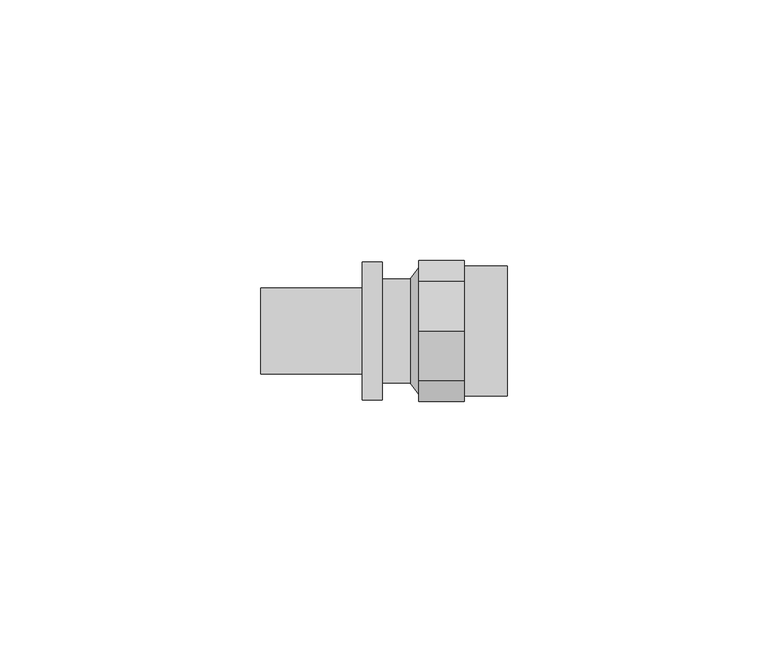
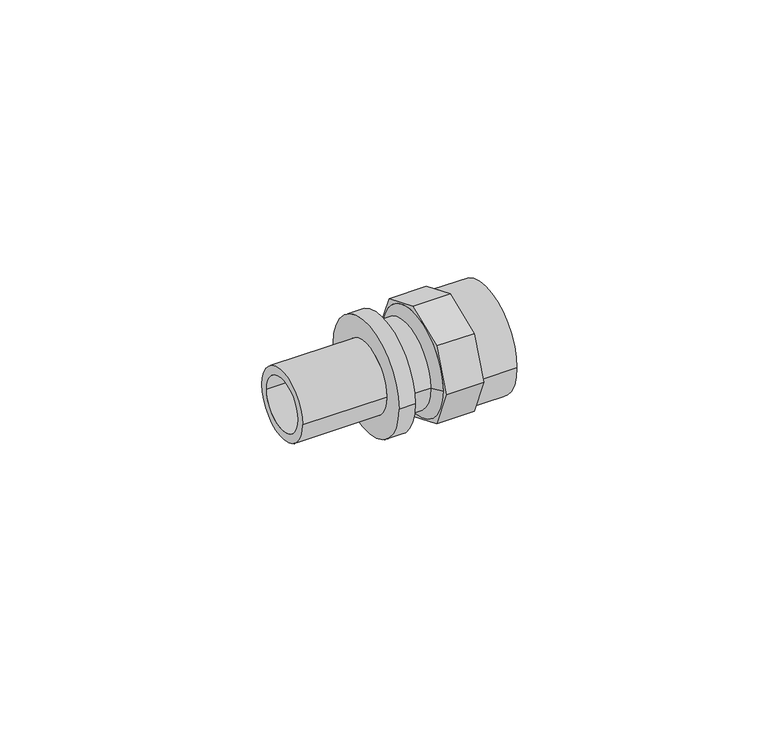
"""IFC4 building model written with IfcOpenShell, lengths in millimetres: pipe fitting geometry, REHAU_RAUTITAN_Adaptor_RX+, with internal thread : REHAU_RAUTITAN_Adaptor_RX+, with internal thread."""

from ifc_helpers import new_model, si_unit, point, frame, origin, origin_2d, place, context, project, spatial, polyline, circle_curve, trimmed, segment, composite_curve, outline, extrude, source, transform, mapped, element, save
from ifc_brep_helpers import plane_surface, cylinder_surface, revolved_surface, advanced_brep


def pipe_fitting_49fee2ea(model_context):
    return source(origin(), model_context, "Body", "SolidModel", [
        advanced_brep(
        [(4.35, -9.5670858, 9.5670858), (4.35, -13.5299025, 0.0), (4.35, -9.5670858, -9.5670858), (4.35, 0.0, -13.5299025), (4.35, 9.5670858, -9.5670858), (4.35, 13.5299025, 0.0), (4.35, 9.5670858, 9.5670858), (4.35, 0.0, 13.5299025), (4.35, -9.5, 0.0), (4.35, 9.5, 0.0), (-4.35, -9.5670858, 9.5670858), (-4.35, 0.0, 13.5299025), (-4.35, 9.5670858, 9.5670858), (-4.35, 13.5299025, 0.0), (-4.35, 9.5670858, -9.5670858), (-4.35, 0.0, -13.5299025), (-4.35, -9.5670858, -9.5670858), (-4.35, -13.5299025, 0.0), (-4.35, -12.1542553, 0.0), (-4.35, 12.1542553, 0.0), (-4.35, 9.9557447, 0.0), (-4.35, -9.9557447, 0.0), (-4.35, -9.5, 0.0), (-4.35, 9.5, 0.0), (-5.97, 10.0, 0.0), (-5.97, -10.0, 0.0), (-11.39, -10.0, 0.0), (-11.39, 10.0, 0.0), (-5.97, 7.25, 0.0), (-5.97, -7.25, 0.0), (-34.69, 6.25, 0.0), (-34.69, -6.25, 0.0), (-11.39, -6.25, 0.0), (-11.39, 6.25, 0.0), (-15.19, 8.225, 0.0), (-15.19, -8.225, 0.0), (-34.69, -8.225, 0.0), (-34.69, 8.225, 0.0), (-11.39, 13.25, 0.0), (-11.39, -13.25, 0.0), (-15.19, -13.25, 0.0), (-15.19, 13.25, 0.0)],
        [
            (0, 1),
            (1, 2),
            (2, 3),
            (3, 4),
            (4, 5),
            (5, 6),
            (6, 7),
            (7, 0),
            (8, 9, circle_curve(frame((4.35, 0.0, 0.0), z_axis=(-1.0, 0.0, 0.0), x_axis=(0.0, 1.0, 0.0)), 9.5)),
            (9, 8, circle_curve(frame((4.35, 0.0, 0.0), z_axis=(-1.0, 0.0, 0.0), x_axis=(0.0, 1.0, 0.0)), 9.5)),
            (10, 11),
            (11, 12),
            (12, 13),
            (13, 14),
            (14, 15),
            (15, 16),
            (16, 17),
            (17, 10),
            (18, 19, circle_curve(frame((-4.35, 0.0, 0.0), z_axis=(1.0, 0.0, 0.0), x_axis=(0.0, -1.0, 0.0)), 12.1542553)),
            (19, 18, circle_curve(frame((-4.35, 0.0, 0.0), z_axis=(1.0, 0.0, 0.0), x_axis=(0.0, 1.0, 0.0)), 12.1542553)),
            (20, 21, circle_curve(frame((-4.35, 0.0, 0.0), z_axis=(-1.0, 0.0, 0.0), x_axis=(0.0, -1.0, 0.0)), 9.9557447)),
            (21, 20, circle_curve(frame((-4.35, 0.0, 0.0), z_axis=(-1.0, 0.0, 0.0), x_axis=(0.0, 1.0, 0.0)), 9.9557447)),
            (22, 23, circle_curve(frame((-4.35, 0.0, 0.0), z_axis=(1.0, 0.0, 0.0), x_axis=(0.0, 1.0, 0.0)), 9.5)),
            (23, 22, circle_curve(frame((-4.35, 0.0, 0.0), z_axis=(1.0, 0.0, 0.0), x_axis=(0.0, 1.0, 0.0)), 9.5)),
            (8, 22),
            (23, 9),
            (0, 10),
            (17, 1),
            (16, 2),
            (15, 3),
            (14, 4),
            (13, 5),
            (12, 6),
            (11, 7),
            (24, 25, circle_curve(frame((-5.97, 0.0, 0.0), z_axis=(-1.0, 0.0, 0.0), x_axis=(0.0, -1.0, 0.0)), 10.0)),
            (25, 26),
            (26, 27, circle_curve(frame((-11.39, 0.0, 0.0), z_axis=(1.0, 0.0, 0.0), x_axis=(0.0, -1.0, 0.0)), 10.0)),
            (27, 24),
            (24, 19),
            (18, 25),
            (28, 29, circle_curve(frame((-5.97, 0.0, 0.0), z_axis=(-1.0, 0.0, 0.0), x_axis=(0.0, -1.0, 0.0)), 7.25)),
            (29, 21),
            (20, 28),
            (30, 31, circle_curve(frame((-34.69, 0.0, 0.0), z_axis=(-1.0, 0.0, 0.0), x_axis=(0.0, -1.0, 0.0)), 6.25)),
            (31, 32),
            (32, 33, circle_curve(frame((-11.39, 0.0, 0.0), z_axis=(1.0, 0.0, 0.0), x_axis=(0.0, -1.0, 0.0)), 6.25)),
            (33, 30),
            (34, 35, circle_curve(frame((-15.19, 0.0, 0.0), z_axis=(-1.0, 0.0, 0.0), x_axis=(0.0, -1.0, 0.0)), 8.225)),
            (35, 36),
            (36, 37, circle_curve(frame((-34.69, 0.0, 0.0), z_axis=(1.0, 0.0, 0.0), x_axis=(0.0, -1.0, 0.0)), 8.225)),
            (37, 34),
            (38, 39, circle_curve(frame((-11.39, 0.0, 0.0), z_axis=(-1.0, 0.0, 0.0), x_axis=(0.0, -1.0, 0.0)), 13.25)),
            (39, 40),
            (40, 41, circle_curve(frame((-15.19, 0.0, 0.0), z_axis=(1.0, 0.0, 0.0), x_axis=(0.0, -1.0, 0.0)), 13.25)),
            (41, 38),
            (38, 39, circle_curve(frame((-11.39, 0.0, 0.0), z_axis=(1.0, 0.0, 0.0), x_axis=(0.0, 1.0, 0.0)), 13.25)),
            (26, 27, circle_curve(frame((-11.39, 0.0, 0.0), z_axis=(-1.0, 0.0, 0.0), x_axis=(0.0, 1.0, 0.0)), 10.0)),
            (25, 24, circle_curve(frame((-5.97, 0.0, 0.0), z_axis=(-1.0, 0.0, 0.0), x_axis=(0.0, 1.0, 0.0)), 10.0)),
            (29, 28, circle_curve(frame((-5.97, 0.0, 0.0), z_axis=(-1.0, 0.0, 0.0), x_axis=(0.0, 1.0, 0.0)), 7.25)),
            (31, 30, circle_curve(frame((-34.69, 0.0, 0.0), z_axis=(-1.0, 0.0, 0.0), x_axis=(0.0, 1.0, 0.0)), 6.25)),
            (33, 32, circle_curve(frame((-11.39, 0.0, 0.0), z_axis=(1.0, 0.0, 0.0), x_axis=(0.0, 1.0, 0.0)), 6.25)),
            (36, 37, circle_curve(frame((-34.69, 0.0, 0.0), z_axis=(-1.0, 0.0, 0.0), x_axis=(0.0, 1.0, 0.0)), 8.225)),
            (35, 34, circle_curve(frame((-15.19, 0.0, 0.0), z_axis=(-1.0, 0.0, 0.0), x_axis=(0.0, 1.0, 0.0)), 8.225)),
            (40, 41, circle_curve(frame((-15.19, 0.0, 0.0), z_axis=(-1.0, 0.0, 0.0), x_axis=(0.0, 1.0, 0.0)), 13.25)),
            (28, 33),
            (32, 29),
        ],
        [
            plane_surface(frame((4.35, 9.5, 0.0), z_axis=(1.0, 0.0, 0.0), x_axis=(0.0, 0.0, -1.0))),
            plane_surface(frame((-4.35, 9.5, 0.0), z_axis=(-1.0, 0.0, 0.0), x_axis=(0.0, 0.0, 1.0))),
            revolved_surface(polyline([(-4.35, 9.5, 0.0), (4.35, 9.5, 0.0)]), (-4.35, 0.0, 0.0), (-1.0, 0.0, 0.0)),
            plane_surface(frame((4.35, -9.5670858, 9.5670858), z_axis=(0.0, -0.9238795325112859, 0.3826834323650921), x_axis=(-1.0, 0.0, 0.0))),
            plane_surface(frame((4.35, -13.5299025, 0.0), z_axis=(0.0, -0.9238795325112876, -0.3826834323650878), x_axis=(-1.0, 0.0, 0.0))),
            plane_surface(frame((4.35, -9.5670858, -9.5670858), z_axis=(0.0, -0.3826834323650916, -0.9238795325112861), x_axis=(-1.0, 0.0, 0.0))),
            plane_surface(frame((4.35, 0.0, -13.5299025), z_axis=(0.0, 0.3826834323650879, -0.9238795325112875), x_axis=(-1.0, 0.0, 0.0))),
            plane_surface(frame((4.35, 9.5670858, -9.5670858), z_axis=(0.0, 0.9238795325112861, -0.3826834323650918), x_axis=(-1.0, 0.0, 0.0))),
            plane_surface(frame((4.35, 13.5299025, 0.0), z_axis=(0.0, 0.9238795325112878, 0.3826834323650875), x_axis=(-1.0, 0.0, 0.0))),
            plane_surface(frame((4.35, 9.5670858, 9.5670858), z_axis=(0.0, 0.382683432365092, 0.9238795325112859), x_axis=(-1.0, 0.0, 0.0))),
            plane_surface(frame((4.35, 0.0, 13.5299025), z_axis=(0.0, -0.3826834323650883, 0.9238795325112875), x_axis=(-1.0, 0.0, 0.0))),
            cylinder_surface(frame((0.0, 0.0, 0.0), z_axis=(1.0, 0.0, 0.0), x_axis=(0.0, -1.0, 0.0)), 10.0),
            revolved_surface(polyline([(-5.97, -10.0, 0.0), (-4.09, -12.5, 0.0)]), (0.0, 0.0, 0.0), (1.0, 0.0, 0.0)),
            revolved_surface(polyline([(-4.09, -10.39, 0.0), (-5.97, -7.25, 0.0)]), (0.0, 0.0, 0.0), (1.0, 0.0, 0.0)),
            revolved_surface(polyline([(-11.39, -6.25, 0.0), (-34.69, -6.25, 0.0)]), (0.0, 0.0, 0.0), (1.0, 0.0, 0.0)),
            cylinder_surface(frame((0.0, 0.0, 0.0), z_axis=(1.0, 0.0, 0.0), x_axis=(0.0, -1.0, 0.0)), 8.225),
            cylinder_surface(frame((0.0, 0.0, 0.0), z_axis=(1.0, 0.0, 0.0), x_axis=(0.0, -1.0, 0.0)), 13.25),
            plane_surface(frame((-11.39, 0.0, 0.0), z_axis=(1.0, 0.0, 0.0), x_axis=(0.0, 1.0, 0.0))),
            cylinder_surface(frame((0.0, 0.0, 0.0), z_axis=(1.0, 0.0, 0.0), x_axis=(0.0, 1.0, 0.0)), 10.0),
            revolved_surface(polyline([(-5.97, 10.0, 0.0), (-4.09, 12.5, 0.0)]), (0.0, 0.0, 0.0), (1.0, 0.0, 0.0)),
            revolved_surface(polyline([(-4.09, 10.39, 0.0), (-5.97, 7.25, 0.0)]), (0.0, 0.0, 0.0), (1.0, 0.0, 0.0)),
            revolved_surface(polyline([(-11.39, 6.25, 0.0), (-34.69, 6.25, 0.0)]), (0.0, 0.0, 0.0), (1.0, 0.0, 0.0)),
            plane_surface(frame((-34.69, 0.0, 0.0), z_axis=(-1.0, 0.0, 0.0), x_axis=(0.0, 1.0, 0.0))),
            cylinder_surface(frame((0.0, 0.0, 0.0), z_axis=(1.0, 0.0, 0.0), x_axis=(0.0, 1.0, 0.0)), 8.225),
            plane_surface(frame((-15.19, 0.0, 0.0), z_axis=(-1.0, 0.0, 0.0), x_axis=(0.0, 1.0, 0.0))),
            cylinder_surface(frame((0.0, 0.0, 0.0), z_axis=(1.0, 0.0, 0.0), x_axis=(0.0, 1.0, 0.0)), 13.25),
            revolved_surface(polyline([(-5.97, -7.25, 0.0), (-11.39, -6.25, 0.0)]), (0.0, 0.0, 0.0), (1.0, 0.0, 0.0)),
            revolved_surface(polyline([(-5.97, 7.25, 0.0), (-11.39, 6.25, 0.0)]), (0.0, 0.0, 0.0), (1.0, 0.0, 0.0)),
        ],
        [
            (0, [[1, 2, 3, 4, 5, 6, 7, 8], [9, 10]]),
            (1, [[11, 12, 13, 14, 15, 16, 17, 18], [19, 20]]),
            (1, [[21, 22], [23, 24]]),
            (2, [[-9, 25, -24, 26]]),
            (2, [[-10, -26, -23, -25]]),
            (3, [[-1, 27, -18, 28]]),
            (4, [[-2, -28, -17, 29]]),
            (5, [[-3, -29, -16, 30]]),
            (6, [[-4, -30, -15, 31]]),
            (7, [[-5, -31, -14, 32]]),
            (8, [[-6, -32, -13, 33]]),
            (9, [[-7, -33, -12, 34]]),
            (10, [[-8, -34, -11, -27]]),
            (11, [[35, 36, 37, 38]]),
            (12, [[-35, 39, -19, 40]]),
            (13, [[41, 42, -21, 43]]),
            (14, [[44, 45, 46, 47]]),
            (15, [[48, 49, 50, 51]]),
            (16, [[52, 53, 54, 55]]),
            (17, [[-52, 56], [-37, 57]]),
            (18, [[-36, 58, -38, -57]]),
            (19, [[-58, -40, -20, -39]]),
            (20, [[59, -43, -22, -42]]),
            (21, [[-45, 60, -47, 61]]),
            (22, [[-50, 62], [-44, -60]]),
            (23, [[-49, 63, -51, -62]]),
            (24, [[-54, 64], [-48, -63]]),
            (25, [[-53, -56, -55, -64]]),
            (26, [[-41, 65, -46, 66]]),
            (27, [[-59, -66, -61, -65]]),
        ],
    ),
        extrude(outline(composite_curve([segment(trimmed(circle_curve(origin_2d(), 12.5), [point((-12.5, 0.0))], [point((12.5, 0.0))], False, "CARTESIAN"), True, "CONTINUOUS"), segment(trimmed(circle_curve(origin_2d(), 12.5), [point((12.5, 0.0))], [point((-12.5, 0.0))], False, "CARTESIAN"), True, "CONTINUOUS")], self_intersect=False), holes=[composite_curve([segment(trimmed(circle_curve(origin_2d(), 10.39), [point((-10.39, 0.0))], [point((10.39, 0.0))], True, "CARTESIAN"), True, "CONTINUOUS"), segment(trimmed(circle_curve(origin_2d(), 10.39), [point((10.39, 0.0))], [point((-10.39, 0.0))], True, "CARTESIAN"), True, "CONTINUOUS")], self_intersect=False)]), frame((4.35, 0.0, 0.0), z_axis=(1.0, 0.0, 0.0), x_axis=(0.0, 1.0, 0.0)), (0.0, 0.0, 1.0), 8.26),
    ])


if __name__ == "__main__":
    model = new_model("IFC4")
    model_context = context("Model", 3, world=origin())
    ifc_project = project(units=[si_unit("LENGTHUNIT", "METRE", prefix="MILLI")], contexts=[model_context])
    site = spatial("IfcSite", under=ifc_project)
    building = spatial("IfcBuilding", under=site)
    placement = place(None, origin())
    pipe_fitting_shape = pipe_fitting_49fee2ea(model_context)
    element("IfcPipeFitting", 1, ObjectType="REHAU_RAUTITAN_Adaptor_RX+, with internal thread : REHAU_RAUTITAN_Adaptor_RX+, with internal thread", at=placement, inside=building, context=model_context, shape_type="MappedRepresentation", body=[
        mapped(pipe_fitting_shape, transform((0.0, 0.0, 0.0), x_axis=(1.0, 0.0, 0.0), y_axis=(0.0, 1.0, 0.0), z_axis=(0.0, 0.0, 1.0))),
    ])
    save(model, "model.ifc")
